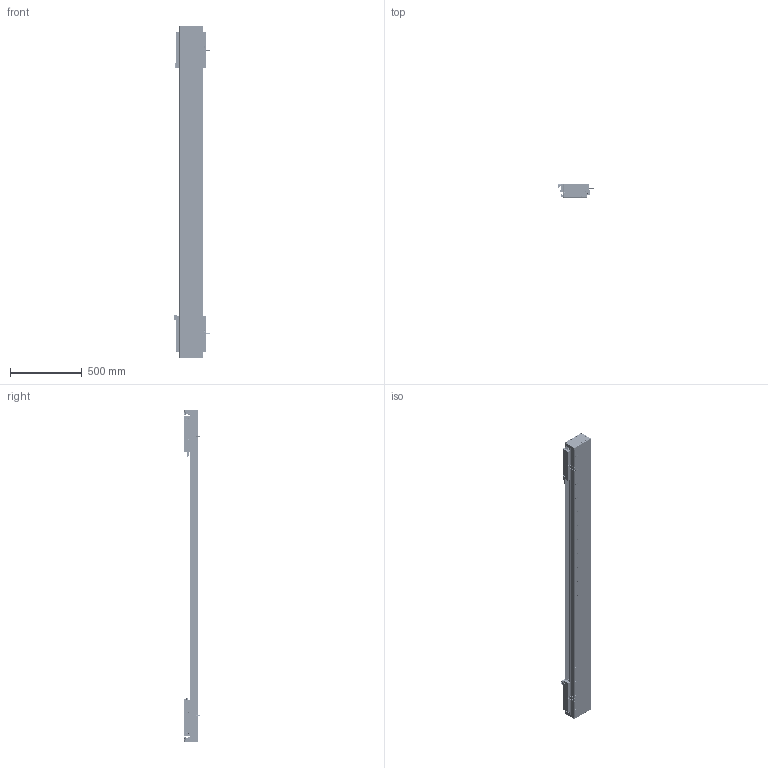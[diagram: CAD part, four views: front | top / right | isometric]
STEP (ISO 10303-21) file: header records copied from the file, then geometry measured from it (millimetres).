
FILE_DESCRIPTION (( 'STEP AP203' ), '1' );
FILE_NAME ('DA-C165-2-C3-T1700-C010-0.2 直线电机.STEP', '2023-06-13T09:22:21', ( '微软用户' ), ( '微软中国' ), 'SwSTEP 2.0', 'SolidWorks 2019', '' );
FILE_SCHEMA (( 'CONFIG_CONTROL_DESIGN' ));
Length unit declared in the file: millimetre
Products named in the file (22): 复件 CU165 底座^IU-CU165-L 底座导轨_L2280; 葩璃 PM-Y45^DA-C165-C3-T-C010-0.2-N 眻盄萇儂; 葩璃 CKM01-W075-TRL^DA-C165-C3-T-C010-0.2-N 眻盄萇儂; 珨极趙賑雄怢啣C3-wf; IU-CU165-L 菁釱絳寢; 复件 DA95-HXJ-00 缓冲橡胶^DA-C165-C3-T-C010-0.2-N 直线电机; 复件 DA165-GDYK-00 钢带压块^复件 CU165钢带组件_DA-C165-C3-T-C010-0.2-N 直线电机; 复件 DA165-GD-1860-002-00 钢带盖板^复件 CU165钢带组件_DA-C165-C3-T-C010-0.2-N 直线电机; 复件 DMA-010-0.2 读数头^DA-C165-C3-T-C010-0.2-N 直线电机; 复件 DA165-GD-DG-H-00 端盖^复件 CU165钢带组件_DA-C165-C3-T-C010-0.2-N 直线电机; 葩璃 CKM03-W075-C1C2-TP-3.0^DA-C165-C3-T-C010-0.2-N 眻盄萇儂; 复件 DKW-HXJ-JY-00 缓冲橡胶^DA-C165-C3-T-C010-0.2-N 直线电机; 复件 CU165钢带组件^DA-C165-C3-T-C010-0.2-N 直线电机; 复件 DA126-GYP-ZJ-00 中间光电感应片^DA-C165-C3-T-C010-0.2-N 直线电机; 葩璃 PM-T45^DA-C165-C3-T-C010-0.2-N 眻盄萇儂; DA-C165-2-C3-T1700-C010-0.2 眻盄萇儂; 葩璃 DA95-GT-T-00^IU-CU165-L 菁釱絳寢_T; 复件 DA165-GDLK-00 钢带拉块^复件 CU165钢带组件_DA-C165-C3-T-C010-0.2-N 直线电机; 复件 DA165-GYP-00 光电感应片^DA-C165-C3-T-C010-0.2-N 直线电机; 复件 XD-U-02L 磁栅尺^DA-C165-C3-T-C010-0.2-N 直线电机_T; 复件 66338-1000-006-00 光电感应块^DA-C165-C3-T-C010-0.2-N 直线电机; 复件 六角薄螺母 M3^DA-C165-C3-T-C010-0.2-N 直线电机_GB_FASTENER_NUT_STNAB M3-C
Assembly tree (45 placements, depth 3):
  DA-C165-2-C3-T1700-C010-0.2 眻盄萇儂
    IU-CU165-L 菁釱絳寢
      复件 CU165 底座^IU-CU165-L 底座导轨_L2280
      葩璃 DA95-GT-T-00^IU-CU165-L 菁釱絳寢_T  x4
    复件 XD-U-02L 磁栅尺^DA-C165-C3-T-C010-0.2-N 直线电机_T
    葩璃 PM-T45^DA-C165-C3-T-C010-0.2-N 眻盄萇儂  x4
    葩璃 CKM01-W075-TRL^DA-C165-C3-T-C010-0.2-N 眻盄萇儂
    复件 CU165钢带组件^DA-C165-C3-T-C010-0.2-N 直线电机
      复件 DA165-GD-DG-H-00 端盖^复件 CU165钢带组件_DA-C165-C3-T-C010-0.2-N 直线电机  x2
      复件 DA165-GDYK-00 钢带压块^复件 CU165钢带组件_DA-C165-C3-T-C010-0.2-N 直线电机  x2
      复件 DA165-GD-1860-002-00 钢带盖板^复件 CU165钢带组件_DA-C165-C3-T-C010-0.2-N 直线电机
      复件 DA165-GDLK-00 钢带拉块^复件 CU165钢带组件_DA-C165-C3-T-C010-0.2-N 直线电机  x2
    复件 DA95-HXJ-00 缓冲橡胶^DA-C165-C3-T-C010-0.2-N 直线电机  x4
    复件 DMA-010-0.2 读数头^DA-C165-C3-T-C010-0.2-N 直线电机  x2
    复件 DA165-GYP-00 光电感应片^DA-C165-C3-T-C010-0.2-N 直线电机  x2
    复件 66338-1000-006-00 光电感应块^DA-C165-C3-T-C010-0.2-N 直线电机
    葩璃 PM-Y45^DA-C165-C3-T-C010-0.2-N 眻盄萇儂
    复件 DA126-GYP-ZJ-00 中间光电感应片^DA-C165-C3-T-C010-0.2-N 直线电机
    葩璃 CKM03-W075-C1C2-TP-3.0^DA-C165-C3-T-C010-0.2-N 眻盄萇儂  x2
    复件 DKW-HXJ-JY-00 缓冲橡胶^DA-C165-C3-T-C010-0.2-N 直线电机  x2
    复件 六角薄螺母 M3^DA-C165-C3-T-C010-0.2-N 直线电机_GB_FASTENER_NUT_STNAB M3-C  x8
    珨极趙賑雄怢啣C3-wf  x2
Bounding box: 247.2 x 111.45 x 2320 mm (x, y, z)
Volume: 15814230.9 mm3; surface area: 4395977.9 mm2
Topology: 121 solids, 221 shells, 6401 faces, 17288 edges, 10724 vertices
Faces by surface type: cylinder 3326, plane 2007, cone 980, torus 80, sphere 8
Entity records: 140102 total; most frequent: CARTESIAN_POINT 36467, ORIENTED_EDGE 21160, DIRECTION 20980, EDGE_CURVE 10580, AXIS2_PLACEMENT_3D 7993, VERTEX_POINT 6878, VECTOR 4994, LINE 4994
